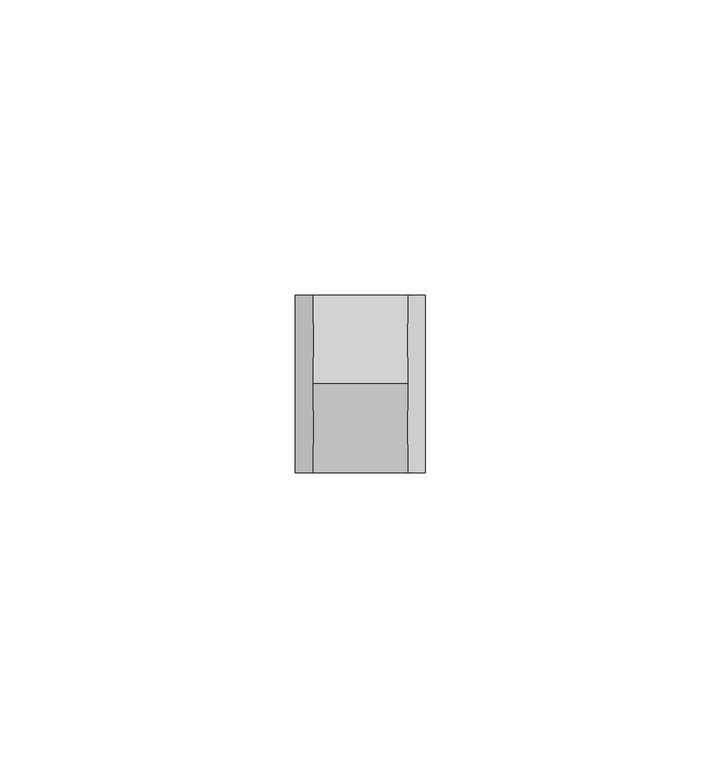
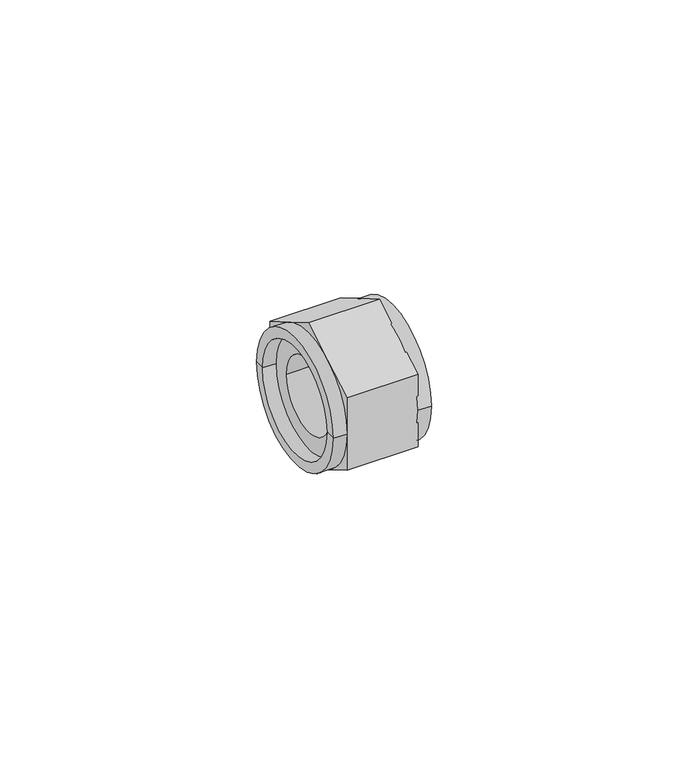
"""IFC4 building model written with IfcOpenShell, lengths in millimetres: pipe fitting geometry, 400_5-_Uponor Vario klemringschroefkoppeling Euro : klemringschroefkoppeling s=2mm."""

from ifc_helpers import new_model, si_unit, frame, origin, place, context, project, spatial, polyline, circle_curve, source, transform, mapped, element, save
from ifc_brep_helpers import plane_surface, cylinder_surface, revolved_surface, advanced_brep


def pipe_fitting_01076926(model_context):
    return source(origin(), model_context, "Body", "AdvancedBrep", [
        advanced_brep(
        [(12.0, -15.0, 0.0), (12.0, 15.0, 0.0), (12.0, 10.0, 0.0), (12.0, -10.0, 0.0), (9.0, -15.0, 0.0), (9.0, -7.5, -12.9903811), (9.0, 7.5, -12.9903811), (9.0, 15.0, 0.0), (9.0, 7.5, 12.9903811), (9.0, -7.5, 12.9903811), (9.0, 10.0, 0.0), (9.0, -10.0, 0.0), (0.0, -8.5, 0.0), (0.0, 8.5, 0.0), (-7.0, 12.6375, 0.0), (-10.0, 12.6375, 0.0), (-10.0, -12.6375, 0.0), (-7.0, -12.6375, 0.0), (-10.0, -15.0, 0.0), (-10.0, 15.0, 0.0), (-7.0, 15.0, 0.0), (-7.0, 7.5, -12.9903811), (-7.0, -7.5, -12.9903811), (-7.0, -15.0, 0.0), (-7.0, -7.5, 12.9903811), (-7.0, 7.5, 12.9903811), (-7.0, 15.0, 8.660254), (-7.0, 15.0, -8.660254), (-7.0, -15.0, -8.660254), (-7.0, -15.0, 8.660254), (-7.0, 0.0, 17.3205081), (-7.0, 0.0, -17.3205081), (-7.0, -8.5, 0.0), (-7.0, 8.5, 0.0), (9.0, -15.0, 8.660254), (9.0, -15.0, -8.660254), (9.0, 15.0, -8.660254), (9.0, 15.0, 8.660254), (9.0, 0.0, 17.3205081), (9.0, 0.0, -17.3205081), (9.0, -8.5, 0.0), (9.0, 8.5, 0.0), (3.0, -8.5, 0.0), (3.0, 8.5, 0.0)],
        [
            (0, 1, circle_curve(frame((12.0, 0.0, 0.0), z_axis=(1.0, 0.0, 0.0), x_axis=(0.0, 0.0, -1.0)), 15.0)),
            (1, 0, circle_curve(frame((12.0, 0.0, 0.0), z_axis=(1.0, 0.0, 0.0), x_axis=(0.0, 0.0, 1.0)), 15.0)),
            (2, 3, circle_curve(frame((12.0, 0.0, 0.0), z_axis=(-1.0, 0.0, 0.0), x_axis=(0.0, 1.0, 0.0)), 10.0)),
            (3, 2, circle_curve(frame((12.0, 0.0, 0.0), z_axis=(-1.0, 0.0, 0.0), x_axis=(0.0, 1.0, 0.0)), 10.0)),
            (0, 4),
            (4, 5, circle_curve(frame((9.0, 0.0, 0.0), z_axis=(1.0, 0.0, 0.0), x_axis=(0.0, 0.0, -1.0)), 15.0)),
            (5, 6, circle_curve(frame((9.0, 0.0, 0.0), z_axis=(1.0, 0.0, 0.0), x_axis=(0.0, 0.0, -1.0)), 15.0)),
            (6, 7, circle_curve(frame((9.0, 0.0, 0.0), z_axis=(1.0, 0.0, 0.0), x_axis=(0.0, 0.0, -1.0)), 15.0)),
            (7, 1),
            (7, 8, circle_curve(frame((9.0, 0.0, 0.0), z_axis=(1.0, 0.0, 0.0), x_axis=(0.0, 0.0, 1.0)), 15.0)),
            (8, 9, circle_curve(frame((9.0, 0.0, 0.0), z_axis=(1.0, 0.0, 0.0), x_axis=(0.0, 0.0, 1.0)), 15.0)),
            (9, 4, circle_curve(frame((9.0, 0.0, 0.0), z_axis=(1.0, 0.0, 0.0), x_axis=(0.0, 0.0, 1.0)), 15.0)),
            (2, 10),
            (10, 11, circle_curve(frame((9.0, 0.0, 0.0), z_axis=(-1.0, 0.0, 0.0), x_axis=(0.0, 1.0, 0.0)), 10.0)),
            (11, 3),
            (11, 10, circle_curve(frame((9.0, 0.0, 0.0), z_axis=(-1.0, 0.0, 0.0), x_axis=(0.0, 1.0, 0.0)), 10.0)),
            (12, 13, circle_curve(frame((0.0, 0.0, 0.0), z_axis=(-1.0, 0.0, 0.0), x_axis=(0.0, 1.0, 0.0)), 8.5)),
            (13, 12, circle_curve(frame((0.0, 0.0, 0.0), z_axis=(-1.0, 0.0, 0.0), x_axis=(0.0, 1.0, 0.0)), 8.5)),
            (14, 15),
            (15, 16, circle_curve(frame((-10.0, 0.0, 0.0), z_axis=(-1.0, 0.0, 0.0), x_axis=(0.0, 1.0, 0.0)), 12.6375)),
            (16, 17),
            (17, 14, circle_curve(frame((-7.0, 0.0, 0.0), z_axis=(1.0, 0.0, 0.0), x_axis=(0.0, 1.0, 0.0)), 12.6375)),
            (14, 17, circle_curve(frame((-7.0, 0.0, 0.0), z_axis=(1.0, 0.0, 0.0), x_axis=(0.0, 1.0, 0.0)), 12.6375)),
            (16, 15, circle_curve(frame((-10.0, 0.0, 0.0), z_axis=(-1.0, 0.0, 0.0), x_axis=(0.0, 1.0, 0.0)), 12.6375)),
            (18, 19, circle_curve(frame((-10.0, 0.0, 0.0), z_axis=(1.0, 0.0, 0.0), x_axis=(0.0, 1.0, 0.0)), 15.0)),
            (19, 20),
            (20, 21, circle_curve(frame((-7.0, 0.0, 0.0), z_axis=(-1.0, 0.0, 0.0), x_axis=(0.0, 1.0, 0.0)), 15.0)),
            (21, 22, circle_curve(frame((-7.0, 0.0, 0.0), z_axis=(-1.0, 0.0, 0.0), x_axis=(0.0, 1.0, 0.0)), 15.0)),
            (22, 23, circle_curve(frame((-7.0, 0.0, 0.0), z_axis=(-1.0, 0.0, 0.0), x_axis=(0.0, 1.0, 0.0)), 15.0)),
            (23, 18),
            (19, 18, circle_curve(frame((-10.0, 0.0, 0.0), z_axis=(1.0, 0.0, 0.0), x_axis=(0.0, 1.0, 0.0)), 15.0)),
            (23, 24, circle_curve(frame((-7.0, 0.0, 0.0), z_axis=(-1.0, 0.0, 0.0), x_axis=(0.0, 1.0, 0.0)), 15.0)),
            (24, 25, circle_curve(frame((-7.0, 0.0, 0.0), z_axis=(-1.0, 0.0, 0.0), x_axis=(0.0, 1.0, 0.0)), 15.0)),
            (25, 20, circle_curve(frame((-7.0, 0.0, 0.0), z_axis=(-1.0, 0.0, 0.0), x_axis=(0.0, 1.0, 0.0)), 15.0)),
            (15, 19),
            (18, 16),
            (26, 20),
            (25, 26),
            (20, 27),
            (27, 21),
            (28, 23),
            (22, 28),
            (23, 29),
            (29, 24),
            (30, 25),
            (24, 30),
            (21, 31),
            (31, 22),
            (32, 33, circle_curve(frame((-7.0, 0.0, 0.0), z_axis=(1.0, 0.0, 0.0), x_axis=(0.0, 1.0, 0.0)), 8.5)),
            (33, 32, circle_curve(frame((-7.0, 0.0, 0.0), z_axis=(1.0, 0.0, 0.0), x_axis=(0.0, 1.0, 0.0)), 8.5)),
            (34, 4),
            (9, 34),
            (4, 35),
            (35, 5),
            (36, 7),
            (6, 36),
            (7, 37),
            (37, 8),
            (38, 9),
            (8, 38),
            (5, 39),
            (39, 6),
            (40, 41, circle_curve(frame((9.0, 0.0, 0.0), z_axis=(-1.0, 0.0, 0.0), x_axis=(0.0, 1.0, 0.0)), 8.5)),
            (41, 40, circle_curve(frame((9.0, 0.0, 0.0), z_axis=(-1.0, 0.0, 0.0), x_axis=(0.0, 1.0, 0.0)), 8.5)),
            (38, 30),
            (29, 34),
            (28, 35),
            (31, 39),
            (27, 36),
            (26, 37),
            (33, 13),
            (12, 32),
            (40, 42),
            (42, 43, circle_curve(frame((3.0, 0.0, 0.0), z_axis=(-1.0, 0.0, 0.0), x_axis=(0.0, 1.0, 0.0)), 8.5)),
            (43, 41),
            (43, 42, circle_curve(frame((3.0, 0.0, 0.0), z_axis=(-1.0, 0.0, 0.0), x_axis=(0.0, 1.0, 0.0)), 8.5)),
        ],
        [
            plane_surface(frame((12.0, 0.0, 0.0), z_axis=(1.0, 0.0, 0.0), x_axis=(0.0, 0.0, -1.0))),
            cylinder_surface(frame((9.0, 0.0, 0.0), z_axis=(1.0, 0.0, 0.0), x_axis=(0.0, 0.0, -1.0)), 15.0),
            cylinder_surface(frame((9.0, 0.0, 0.0), z_axis=(1.0, 0.0, 0.0), x_axis=(0.0, 0.0, 1.0)), 15.0),
            revolved_surface(polyline([(12.0, 10.0, 0.0), (9.0, 10.0, 0.0)]), (3.0, 0.0, 0.0), (1.0, 0.0, 0.0)),
            plane_surface(frame((0.0, 0.0, 0.0), z_axis=(-1.0, 0.0, 0.0), x_axis=(0.0, 0.0, -1.0))),
            revolved_surface(polyline([(-10.0, 12.6375, 0.0), (-7.0, 12.6375, 0.0)]), (97.18125, 0.0, 0.0), (-1.0, 0.0, 0.0)),
            cylinder_surface(frame((97.18125, 0.0, 0.0), z_axis=(-1.0, 0.0, 0.0), x_axis=(0.0, 1.0, 0.0)), 15.0),
            plane_surface(frame((-10.0, 0.0, 0.0), z_axis=(-1.0, 0.0, 0.0), x_axis=(0.0, 1.0, 0.0))),
            plane_surface(frame((-7.0, 0.0, 17.3205081), z_axis=(-1.0, 0.0, 0.0), x_axis=(0.0, 0.8660254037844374, 0.5000000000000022))),
            plane_surface(frame((9.0, 0.0, 17.3205081), z_axis=(1.0, 0.0, 0.0), x_axis=(0.0, -0.8660254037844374, -0.5000000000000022))),
            plane_surface(frame((9.0, 0.0, 17.3205081), z_axis=(0.0, -0.5000000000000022, 0.8660254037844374), x_axis=(-1.0, 0.0, 0.0))),
            plane_surface(frame((9.0, -15.0, 8.660254), z_axis=(0.0, -1.0, 0.0), x_axis=(-1.0, 0.0, 0.0))),
            plane_surface(frame((9.0, -15.0, -8.660254), z_axis=(0.0, -0.4999999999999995, -0.866025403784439), x_axis=(-1.0, 0.0, 0.0))),
            plane_surface(frame((9.0, 0.0, -17.3205081), z_axis=(0.0, 0.5000000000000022, -0.8660254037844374), x_axis=(-1.0, 0.0, 0.0))),
            plane_surface(frame((9.0, 15.0, -8.660254), z_axis=(0.0, 1.0, 0.0), x_axis=(-1.0, 0.0, 0.0))),
            plane_surface(frame((9.0, 15.0, 8.660254), z_axis=(0.0, 0.4999999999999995, 0.8660254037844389), x_axis=(-1.0, 0.0, 0.0))),
            revolved_surface(polyline([(-7.0, 8.5, 0.0), (0.0, 8.5, 0.0)]), (0.0, 0.0, 0.0), (-1.0, 0.0, 0.0)),
            revolved_surface(polyline([(3.0, 8.5, 0.0), (9.0, 8.5, 0.0)]), (0.0, 0.0, 0.0), (-1.0, 0.0, 0.0)),
            plane_surface(frame((3.0, 10.0, 0.0), z_axis=(1.0, 0.0, 0.0), x_axis=(0.0, 0.0, -1.0))),
        ],
        [
            (0, [[1, 2], [3, 4]]),
            (1, [[-1, 5, 6, 7, 8, 9]]),
            (2, [[-2, -9, 10, 11, 12, -5]]),
            (3, [[-3, 13, 14, 15]]),
            (3, [[-4, -15, 16, -13]]),
            (4, [[17, 18]]),
            (5, [[19, 20, 21, 22]]),
            (5, [[-19, 23, -21, 24]]),
            (6, [[25, 26, 27, 28, 29, 30]]),
            (6, [[-26, 31, -30, 32, 33, 34]]),
            (7, [[-20, 35, -25, 36]]),
            (7, [[-24, -36, -31, -35]]),
            (8, [[37, -34, 38]]),
            (8, [[39, 40, -27]]),
            (8, [[41, -29, 42]]),
            (8, [[43, 44, -32]]),
            (8, [[45, -33, 46]]),
            (8, [[47, 48, -28]]),
            (8, [[-22, -23], [49, 50]]),
            (9, [[51, -12, 52]]),
            (9, [[53, 54, -6]]),
            (9, [[55, -8, 56]]),
            (9, [[57, 58, -10]]),
            (9, [[59, -11, 60]]),
            (9, [[61, 62, -7]]),
            (9, [[-14, -16], [63, 64]]),
            (10, [[65, -46, -44, 66, -52, -59]]),
            (11, [[-66, -43, -41, 67, -53, -51]]),
            (12, [[-67, -42, -48, 68, -61, -54]]),
            (13, [[-68, -47, -40, 69, -56, -62]]),
            (14, [[-69, -39, -37, 70, -57, -55]]),
            (15, [[-65, -60, -58, -70, -38, -45]]),
            (16, [[-50, 71, -17, 72]]),
            (17, [[-63, 73, 74, 75]]),
            (16, [[-49, -72, -18, -71]]),
            (17, [[-64, -75, 76, -73]]),
            (18, [[-74, -76]]),
        ],
    ),
    ])


if __name__ == "__main__":
    model = new_model("IFC4")
    model_context = context("Model", 3, world=origin())
    ifc_project = project(units=[si_unit("LENGTHUNIT", "METRE", prefix="MILLI")], contexts=[model_context])
    site = spatial("IfcSite", under=ifc_project)
    building = spatial("IfcBuilding", under=site)
    placement = place(None, origin())
    pipe_fitting_shape = pipe_fitting_01076926(model_context)
    element("IfcPipeFitting", 1, ObjectType="400_5-_Uponor Vario klemringschroefkoppeling Euro : klemringschroefkoppeling s=2mm", at=placement, inside=building, context=model_context, shape_type="MappedRepresentation", body=[
        mapped(pipe_fitting_shape, transform((0.0, 0.0, 0.0), x_axis=(1.0, 0.0, 0.0), y_axis=(0.0, 1.0, 0.0), z_axis=(0.0, 0.0, 1.0))),
    ])
    save(model, "model.ifc")
